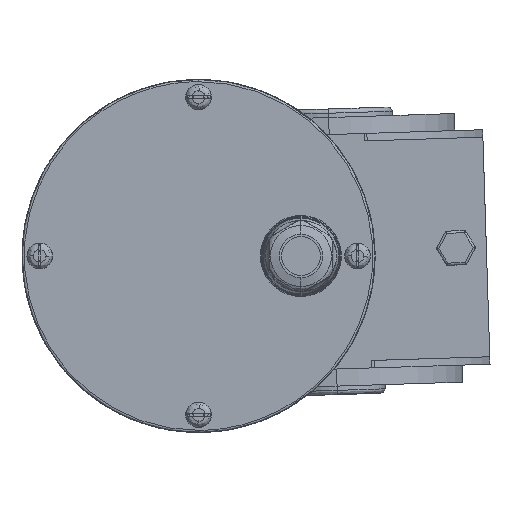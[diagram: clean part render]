
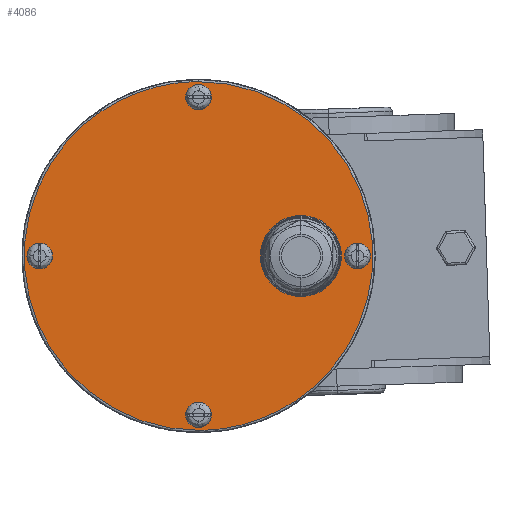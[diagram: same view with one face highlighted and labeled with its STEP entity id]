
A CAD part, left-side view. The second image highlights one B-rep face of the part: STEP entity #4086.
In plain terms, the highlighted planar face has unit normal (-1, 0, 0).
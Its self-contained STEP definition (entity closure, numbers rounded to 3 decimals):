
#475 = AXIS2_PLACEMENT_3D ( 'NONE', #8425, #8450, #8428 ) ;
#524 = AXIS2_PLACEMENT_3D ( 'NONE', #8214, #8201, #8206 ) ;
#562 = AXIS2_PLACEMENT_3D ( 'NONE', #10955, #10958, #10966 ) ;
#563 = AXIS2_PLACEMENT_3D ( 'NONE', #11193, #11196, #11232 ) ;
#571 = AXIS2_PLACEMENT_3D ( 'NONE', #11072, #11073, #11052 ) ;
#574 = AXIS2_PLACEMENT_3D ( 'NONE', #11349, #11353, #11357 ) ;
#576 = AXIS2_PLACEMENT_3D ( 'NONE', #11711, #11712, #11708 ) ;
#585 = AXIS2_PLACEMENT_3D ( 'NONE', #8260, #8280, #8256 ) ;
#588 = AXIS2_PLACEMENT_3D ( 'NONE', #8252, #8263, #8277 ) ;
#600 = AXIS2_PLACEMENT_3D ( 'NONE', #11162, #11221, #11195 ) ;
#1161 = CIRCLE ( 'NONE', #475, 4.75 ) ;
#1263 = CIRCLE ( 'NONE', #585, 4.75 ) ;
#1264 = CIRCLE ( 'NONE', #576, 4.75 ) ;
#1265 = CIRCLE ( 'NONE', #524, 15.35 ) ;
#1292 = CIRCLE ( 'NONE', #588, 4.75 ) ;
#1327 = CIRCLE ( 'NONE', #571, 4.75 ) ;
#1350 = CIRCLE ( 'NONE', #562, 4.75 ) ;
#1352 = CIRCLE ( 'NONE', #563, 4.75 ) ;
#1358 = CIRCLE ( 'NONE', #600, 15.35 ) ;
#1365 = CIRCLE ( 'NONE', #574, 4.75 ) ;
#3159 = CARTESIAN_POINT ( 'NONE',  ( -162., 0., 81.75 ) ) ;
#4086 = ADVANCED_FACE ( 'NONE', ( #8010, #8026, #8009, #8041, #8011, #8032 ), #15020, .F. ) ;
#5456 =( BOUNDED_CURVE ( )  B_SPLINE_CURVE ( 3, ( #8184, #8213, #8190, #8178 ),
 .UNSPECIFIED., .F., .F. ) 
 B_SPLINE_CURVE_WITH_KNOTS ( ( 4, 4 ),
 ( 0., 1. ),
 .UNSPECIFIED. ) 
 CURVE ( )  GEOMETRIC_REPRESENTATION_ITEM ( )  RATIONAL_B_SPLINE_CURVE ( ( 1., 0.333, 0.333, 1. ) ) 
 REPRESENTATION_ITEM ( '' )  );
#5506 =( BOUNDED_CURVE ( )  B_SPLINE_CURVE ( 3, ( #11314, #11287, #11317, #11276 ),
 .UNSPECIFIED., .F., .F. ) 
 B_SPLINE_CURVE_WITH_KNOTS ( ( 4, 4 ),
 ( 0., 1. ),
 .UNSPECIFIED. ) 
 CURVE ( )  GEOMETRIC_REPRESENTATION_ITEM ( )  RATIONAL_B_SPLINE_CURVE ( ( 1., 0.333, 0.333, 1. ) ) 
 REPRESENTATION_ITEM ( '' )  );
#5820 = CARTESIAN_POINT ( 'NONE',  ( -162., 0., -81.75 ) ) ;
#6874 = VERTEX_POINT ( 'NONE', #3159 ) ;
#8009 = FACE_BOUND ( 'NONE', #9373, .T. ) ;
#8010 = FACE_BOUND ( 'NONE', #9371, .T. ) ;
#8011 = FACE_OUTER_BOUND ( 'NONE', #9382, .T. ) ;
#8026 = FACE_BOUND ( 'NONE', #9388, .T. ) ;
#8032 = FACE_BOUND ( 'NONE', #9339, .T. ) ;
#8041 = FACE_BOUND ( 'NONE', #9366, .T. ) ;
#8178 = CARTESIAN_POINT ( 'NONE',  ( -162., 0., -81.75 ) ) ;
#8184 = CARTESIAN_POINT ( 'NONE',  ( -162., 0., 81.75 ) ) ;
#8190 = CARTESIAN_POINT ( 'NONE',  ( -162., -163.5, -81.75 ) ) ;
#8201 = DIRECTION ( 'NONE',  ( -1., 0., 0. ) ) ;
#8206 = DIRECTION ( 'NONE',  ( 0., 0., 1. ) ) ;
#8213 = CARTESIAN_POINT ( 'NONE',  ( -162., -163.5, 81.75 ) ) ;
#8214 = CARTESIAN_POINT ( 'NONE',  ( -162., -48., 0. ) ) ;
#8252 = CARTESIAN_POINT ( 'NONE',  ( -162., 74.5, 0. ) ) ;
#8256 = DIRECTION ( 'NONE',  ( 0., -1., 0. ) ) ;
#8260 = CARTESIAN_POINT ( 'NONE',  ( -162., -74.5, 0. ) ) ;
#8263 = DIRECTION ( 'NONE',  ( -1., 0., 0. ) ) ;
#8277 = DIRECTION ( 'NONE',  ( 0., -1., 0. ) ) ;
#8280 = DIRECTION ( 'NONE',  ( -1., 0., 0. ) ) ;
#8425 = CARTESIAN_POINT ( 'NONE',  ( -162., 0., -74.5 ) ) ;
#8428 = DIRECTION ( 'NONE',  ( 0., -1., 0. ) ) ;
#8450 = DIRECTION ( 'NONE',  ( -1., 0., 0. ) ) ;
#9339 = EDGE_LOOP ( 'NONE', ( #13761, #13726 ) ) ;
#9366 = EDGE_LOOP ( 'NONE', ( #13700, #13735 ) ) ;
#9371 = EDGE_LOOP ( 'NONE', ( #13722, #13706 ) ) ;
#9373 = EDGE_LOOP ( 'NONE', ( #13754, #13702 ) ) ;
#9382 = EDGE_LOOP ( 'NONE', ( #13742, #13758 ) ) ;
#9388 = EDGE_LOOP ( 'NONE', ( #13709, #13738 ) ) ;
#10955 = CARTESIAN_POINT ( 'NONE',  ( -162., 0., 74.5 ) ) ;
#10958 = DIRECTION ( 'NONE',  ( -1., 0., 0. ) ) ;
#10966 = DIRECTION ( 'NONE',  ( 0., -1., 0. ) ) ;
#11052 = DIRECTION ( 'NONE',  ( 0., -1., 0. ) ) ;
#11072 = CARTESIAN_POINT ( 'NONE',  ( -162., 74.5, 0. ) ) ;
#11073 = DIRECTION ( 'NONE',  ( -1., 0., 0. ) ) ;
#11162 = CARTESIAN_POINT ( 'NONE',  ( -162., -48., 0. ) ) ;
#11193 = CARTESIAN_POINT ( 'NONE',  ( -162., -74.5, 0. ) ) ;
#11195 = DIRECTION ( 'NONE',  ( 0., 0., 1. ) ) ;
#11196 = DIRECTION ( 'NONE',  ( -1., 0., 0. ) ) ;
#11221 = DIRECTION ( 'NONE',  ( -1., 0., 0. ) ) ;
#11232 = DIRECTION ( 'NONE',  ( 0., -1., 0. ) ) ;
#11276 = CARTESIAN_POINT ( 'NONE',  ( -162., 0., 81.75 ) ) ;
#11287 = CARTESIAN_POINT ( 'NONE',  ( -162., 163.5, -81.75 ) ) ;
#11314 = CARTESIAN_POINT ( 'NONE',  ( -162., 0., -81.75 ) ) ;
#11317 = CARTESIAN_POINT ( 'NONE',  ( -162., 163.5, 81.75 ) ) ;
#11349 = CARTESIAN_POINT ( 'NONE',  ( -162., 0., 74.5 ) ) ;
#11353 = DIRECTION ( 'NONE',  ( -1., 0., 0. ) ) ;
#11357 = DIRECTION ( 'NONE',  ( 0., -1., 0. ) ) ;
#11593 = CARTESIAN_POINT ( 'NONE',  ( -162., 4.75, -74.5 ) ) ;
#11603 = CARTESIAN_POINT ( 'NONE',  ( -162., -48., -15.35 ) ) ;
#11618 = CARTESIAN_POINT ( 'NONE',  ( -162., -48., 15.35 ) ) ;
#11621 = CARTESIAN_POINT ( 'NONE',  ( -162., -69.75, 0. ) ) ;
#11627 = CARTESIAN_POINT ( 'NONE',  ( -162., -4.75, 74.5 ) ) ;
#11641 = CARTESIAN_POINT ( 'NONE',  ( -162., 4.75, 74.5 ) ) ;
#11642 = CARTESIAN_POINT ( 'NONE',  ( -162., -79.25, 0. ) ) ;
#11649 = CARTESIAN_POINT ( 'NONE',  ( -162., 69.75, 0. ) ) ;
#11664 = CARTESIAN_POINT ( 'NONE',  ( -162., -4.75, -74.5 ) ) ;
#11670 = CARTESIAN_POINT ( 'NONE',  ( -162., 79.25, 0. ) ) ;
#11708 = DIRECTION ( 'NONE',  ( 0., -1., 0. ) ) ;
#11711 = CARTESIAN_POINT ( 'NONE',  ( -162., 0., -74.5 ) ) ;
#11712 = DIRECTION ( 'NONE',  ( -1., 0., 0. ) ) ;
#11765 = EDGE_CURVE ( 'NONE', #13028, #12952, #1161, .T. ) ;
#11846 = EDGE_CURVE ( 'NONE', #13016, #13002, #1265, .T. ) ;
#11853 = EDGE_CURVE ( 'NONE', #6874, #13919, #5456, .T. ) ;
#11880 = EDGE_CURVE ( 'NONE', #13033, #13003, #1292, .T. ) ;
#11881 = EDGE_CURVE ( 'NONE', #13021, #13017, #1263, .T. ) ;
#11889 = EDGE_CURVE ( 'NONE', #12952, #13028, #1264, .T. ) ;
#11895 = EDGE_CURVE ( 'NONE', #13014, #12990, #1350, .T. ) ;
#11916 = EDGE_CURVE ( 'NONE', #13003, #13033, #1327, .T. ) ;
#11938 = EDGE_CURVE ( 'NONE', #13002, #13016, #1358, .T. ) ;
#11941 = EDGE_CURVE ( 'NONE', #13017, #13021, #1352, .T. ) ;
#11959 = EDGE_CURVE ( 'NONE', #13919, #6874, #5506, .T. ) ;
#11968 = EDGE_CURVE ( 'NONE', #12990, #13014, #1365, .T. ) ;
#12952 = VERTEX_POINT ( 'NONE', #11593 ) ;
#12990 = VERTEX_POINT ( 'NONE', #11627 ) ;
#13002 = VERTEX_POINT ( 'NONE', #11603 ) ;
#13003 = VERTEX_POINT ( 'NONE', #11649 ) ;
#13014 = VERTEX_POINT ( 'NONE', #11641 ) ;
#13016 = VERTEX_POINT ( 'NONE', #11618 ) ;
#13017 = VERTEX_POINT ( 'NONE', #11642 ) ;
#13021 = VERTEX_POINT ( 'NONE', #11621 ) ;
#13028 = VERTEX_POINT ( 'NONE', #11664 ) ;
#13033 = VERTEX_POINT ( 'NONE', #11670 ) ;
#13700 = ORIENTED_EDGE ( 'NONE', *, *, #11916, .F. ) ;
#13702 = ORIENTED_EDGE ( 'NONE', *, *, #11895, .F. ) ;
#13706 = ORIENTED_EDGE ( 'NONE', *, *, #11889, .F. ) ;
#13709 = ORIENTED_EDGE ( 'NONE', *, *, #11941, .F. ) ;
#13722 = ORIENTED_EDGE ( 'NONE', *, *, #11765, .F. ) ;
#13726 = ORIENTED_EDGE ( 'NONE', *, *, #11938, .F. ) ;
#13735 = ORIENTED_EDGE ( 'NONE', *, *, #11880, .F. ) ;
#13738 = ORIENTED_EDGE ( 'NONE', *, *, #11881, .F. ) ;
#13742 = ORIENTED_EDGE ( 'NONE', *, *, #11959, .F. ) ;
#13754 = ORIENTED_EDGE ( 'NONE', *, *, #11968, .F. ) ;
#13758 = ORIENTED_EDGE ( 'NONE', *, *, #11853, .F. ) ;
#13761 = ORIENTED_EDGE ( 'NONE', *, *, #11846, .F. ) ;
#13919 = VERTEX_POINT ( 'NONE', #5820 ) ;
#15010 = CARTESIAN_POINT ( 'NONE',  ( -162., 0., 0. ) ) ;
#15015 = DIRECTION ( 'NONE',  ( 1., 0., 0. ) ) ;
#15020 = PLANE ( 'NONE',  #16337 ) ;
#15030 = DIRECTION ( 'NONE',  ( 0., 1., 0. ) ) ;
#16337 = AXIS2_PLACEMENT_3D ( 'NONE', #15010, #15015, #15030 ) ;
